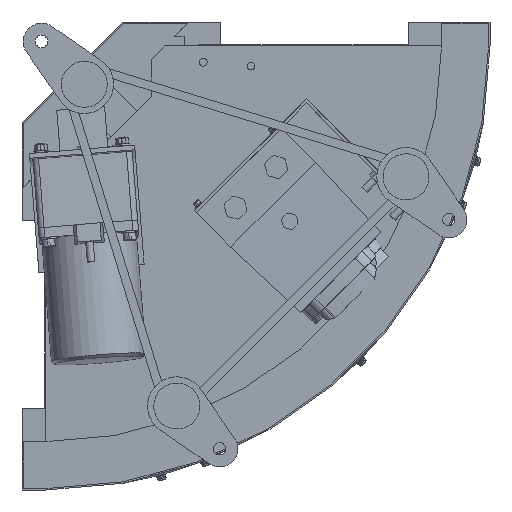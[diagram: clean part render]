
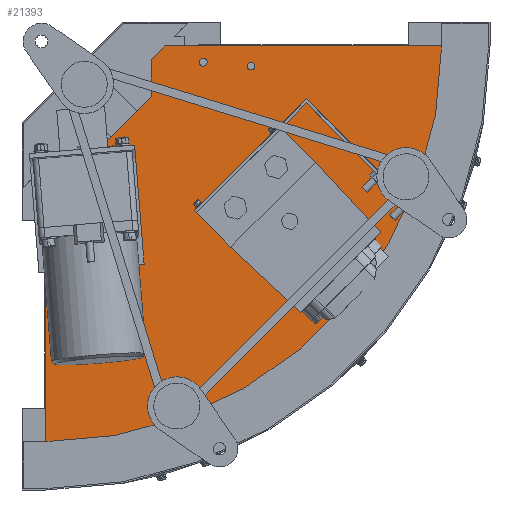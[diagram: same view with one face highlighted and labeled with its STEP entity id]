
A CAD part, front view. The second image highlights one B-rep face of the part: STEP entity #21393.
In plain terms, the highlighted planar face has unit normal (0, -1, 0).
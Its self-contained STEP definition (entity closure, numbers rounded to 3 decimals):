
#17 = CARTESIAN_POINT ( 'NONE',  ( 52.635, -142.5, -110. ) ) ;
#101 = CARTESIAN_POINT ( 'NONE',  ( 0., -142.5, -124.1 ) ) ;
#283 = DIRECTION ( 'NONE',  ( 0., -1., 0. ) ) ;
#343 = CARTESIAN_POINT ( 'NONE',  ( 62.05, -142.5, -62.05 ) ) ;
#472 = FACE_BOUND ( 'NONE', #18788, .T. ) ;
#520 = CARTESIAN_POINT ( 'NONE',  ( 62.05, -142.5, -62.05 ) ) ;
#624 = LINE ( 'NONE', #17, #16010 ) ;
#1171 = CARTESIAN_POINT ( 'NONE',  ( 110., -142.5, -52.635 ) ) ;
#1220 = EDGE_LOOP ( 'NONE', ( #7343, #12556, #36655, #22123, #29089, #33009, #18945, #3574 ) ) ;
#1806 = FACE_OUTER_BOUND ( 'NONE', #1220, .T. ) ;
#1885 = CARTESIAN_POINT ( 'NONE',  ( 17., -142.5, -164. ) ) ;
#2014 = CARTESIAN_POINT ( 'NONE',  ( 110., -142.5, -14.1 ) ) ;
#2052 = VERTEX_POINT ( 'NONE', #27908 ) ;
#2481 = CARTESIAN_POINT ( 'NONE',  ( 0., -142.5, 0. ) ) ;
#2690 = ORIENTED_EDGE ( 'NONE', *, *, #23067, .F. ) ;
#2881 = DIRECTION ( 'NONE',  ( 0., -1., 0. ) ) ;
#2929 = CARTESIAN_POINT ( 'NONE',  ( 17., -142.5, -160. ) ) ;
#2944 = DIRECTION ( 'NONE',  ( 0., 0., 1. ) ) ;
#3142 = DIRECTION ( 'NONE',  ( 0., 0., -1. ) ) ;
#3282 = EDGE_CURVE ( 'NONE', #18198, #31568, #14964, .T. ) ;
#3325 = VERTEX_POINT ( 'NONE', #12368 ) ;
#3333 = DIRECTION ( 'NONE',  ( 0., 1., 0. ) ) ;
#3450 = AXIS2_PLACEMENT_3D ( 'NONE', #14442, #11434, #17650 ) ;
#3574 = ORIENTED_EDGE ( 'NONE', *, *, #31744, .F. ) ;
#3615 = CARTESIAN_POINT ( 'NONE',  ( 21., -142.5, -213.84 ) ) ;
#3845 = ORIENTED_EDGE ( 'NONE', *, *, #24919, .F. ) ;
#3897 = ORIENTED_EDGE ( 'NONE', *, *, #9647, .F. ) ;
#3936 = AXIS2_PLACEMENT_3D ( 'NONE', #1885, #34111, #7714 ) ;
#4025 = CARTESIAN_POINT ( 'NONE',  ( 213.84, -142.5, -21. ) ) ;
#4561 = LINE ( 'NONE', #1171, #33589 ) ;
#5701 = CIRCLE ( 'NONE', #12524, 4. ) ;
#6192 = CIRCLE ( 'NONE', #3936, 4. ) ;
#6391 = FACE_BOUND ( 'NONE', #13212, .T. ) ;
#6449 = DIRECTION ( 'NONE',  ( -0.707, 0., -0.707 ) ) ;
#6513 = VERTEX_POINT ( 'NONE', #2929 ) ;
#6903 = AXIS2_PLACEMENT_3D ( 'NONE', #2481, #22778, #11593 ) ;
#6997 = AXIS2_PLACEMENT_3D ( 'NONE', #34610, #17207, #37530 ) ;
#7343 = ORIENTED_EDGE ( 'NONE', *, *, #16165, .F. ) ;
#7386 = DIRECTION ( 'NONE',  ( 0., 0., 1. ) ) ;
#7714 = DIRECTION ( 'NONE',  ( 0., 0., 1. ) ) ;
#8324 = EDGE_CURVE ( 'NONE', #17998, #20079, #36507, .T. ) ;
#8554 = CARTESIAN_POINT ( 'NONE',  ( 164., -142.5, -17. ) ) ;
#8577 = AXIS2_PLACEMENT_3D ( 'NONE', #3615, #283, #9035 ) ;
#9035 = DIRECTION ( 'NONE',  ( 0., 0., 1. ) ) ;
#9090 = FACE_BOUND ( 'NONE', #31180, .T. ) ;
#9585 = CARTESIAN_POINT ( 'NONE',  ( 52.635, -142.5, -110. ) ) ;
#9647 = EDGE_CURVE ( 'NONE', #15930, #26218, #34142, .T. ) ;
#9822 = DIRECTION ( 'NONE',  ( 0., 0., -1. ) ) ;
#10242 = ORIENTED_EDGE ( 'NONE', *, *, #22029, .F. ) ;
#10517 = VERTEX_POINT ( 'NONE', #16904 ) ;
#10797 = CARTESIAN_POINT ( 'NONE',  ( 0., -142.5, -412.5 ) ) ;
#11302 = EDGE_CURVE ( 'NONE', #2052, #29386, #35357, .T. ) ;
#11434 = DIRECTION ( 'NONE',  ( 0., -1., 0. ) ) ;
#11593 = DIRECTION ( 'NONE',  ( 0., 0., 1. ) ) ;
#11781 = CARTESIAN_POINT ( 'NONE',  ( 0., -142.5, 0. ) ) ;
#12368 = CARTESIAN_POINT ( 'NONE',  ( 110., -142.5, -52.635 ) ) ;
#12522 = ORIENTED_EDGE ( 'NONE', *, *, #21270, .F. ) ;
#12524 = AXIS2_PLACEMENT_3D ( 'NONE', #4025, #24332, #9822 ) ;
#12556 = ORIENTED_EDGE ( 'NONE', *, *, #29061, .F. ) ;
#13187 = CARTESIAN_POINT ( 'NONE',  ( 21., -142.5, -209.84 ) ) ;
#13212 = EDGE_LOOP ( 'NONE', ( #12522, #36201 ) ) ;
#13308 = LINE ( 'NONE', #32539, #29267 ) ;
#13390 = CARTESIAN_POINT ( 'NONE',  ( 213.84, -142.5, -25. ) ) ;
#13525 = VECTOR ( 'NONE', #36117, 1000. ) ;
#13764 = EDGE_LOOP ( 'NONE', ( #2690, #3897 ) ) ;
#14368 = DIRECTION ( 'NONE',  ( 0., -1., 0. ) ) ;
#14442 = CARTESIAN_POINT ( 'NONE',  ( 164., -142.5, -17. ) ) ;
#14730 = DIRECTION ( 'NONE',  ( 1., 0., 0. ) ) ;
#14964 = LINE ( 'NONE', #343, #17287 ) ;
#15691 = DIRECTION ( 'NONE',  ( 0.707, 0., 0.707 ) ) ;
#15724 = VERTEX_POINT ( 'NONE', #26822 ) ;
#15930 = VERTEX_POINT ( 'NONE', #22745 ) ;
#16010 = VECTOR ( 'NONE', #31468, 1000. ) ;
#16165 = EDGE_CURVE ( 'NONE', #17176, #3325, #4561, .T. ) ;
#16904 = CARTESIAN_POINT ( 'NONE',  ( 213.84, -142.5, -17. ) ) ;
#17176 = VERTEX_POINT ( 'NONE', #9585 ) ;
#17207 = DIRECTION ( 'NONE',  ( 0., -1., 0. ) ) ;
#17287 = VECTOR ( 'NONE', #6449, 1000. ) ;
#17650 = DIRECTION ( 'NONE',  ( 0., 0., -1. ) ) ;
#17773 = EDGE_CURVE ( 'NONE', #20079, #29386, #36606, .T. ) ;
#17993 = CIRCLE ( 'NONE', #6997, 4. ) ;
#17998 = VERTEX_POINT ( 'NONE', #22611 ) ;
#18198 = VERTEX_POINT ( 'NONE', #21317 ) ;
#18389 = DIRECTION ( 'NONE',  ( 0., 0., 1. ) ) ;
#18457 = EDGE_CURVE ( 'NONE', #6513, #20670, #6192, .T. ) ;
#18594 = CARTESIAN_POINT ( 'NONE',  ( 110., -142.5, -14.1 ) ) ;
#18706 = CARTESIAN_POINT ( 'NONE',  ( 0., -142.5, -412.5 ) ) ;
#18788 = EDGE_LOOP ( 'NONE', ( #28890, #10242 ) ) ;
#18945 = ORIENTED_EDGE ( 'NONE', *, *, #3282, .T. ) ;
#19339 = EDGE_CURVE ( 'NONE', #18198, #17998, #13308, .T. ) ;
#19422 = CIRCLE ( 'NONE', #23466, 4. ) ;
#19832 = PLANE ( 'NONE',  #6903 ) ;
#20079 = VERTEX_POINT ( 'NONE', #18706 ) ;
#20235 = CARTESIAN_POINT ( 'NONE',  ( 164., -142.5, -21. ) ) ;
#20670 = VERTEX_POINT ( 'NONE', #25097 ) ;
#20801 = DIRECTION ( 'NONE',  ( -0.707, 0., -0.707 ) ) ;
#21270 = EDGE_CURVE ( 'NONE', #20670, #6513, #32698, .T. ) ;
#21317 = CARTESIAN_POINT ( 'NONE',  ( 124.1, -142.5, 0. ) ) ;
#21393 = ADVANCED_FACE ( 'NONE', ( #9090, #472, #6391, #36759, #1806 ), #19832, .F. ) ;
#21514 = AXIS2_PLACEMENT_3D ( 'NONE', #11781, #3333, #2944 ) ;
#22029 = EDGE_CURVE ( 'NONE', #23372, #15724, #37697, .T. ) ;
#22123 = ORIENTED_EDGE ( 'NONE', *, *, #17773, .F. ) ;
#22611 = CARTESIAN_POINT ( 'NONE',  ( 412.5, -142.5, 0. ) ) ;
#22745 = CARTESIAN_POINT ( 'NONE',  ( 164., -142.5, -13. ) ) ;
#22778 = DIRECTION ( 'NONE',  ( 0., 1., 0. ) ) ;
#23067 = EDGE_CURVE ( 'NONE', #26218, #15930, #19422, .T. ) ;
#23372 = VERTEX_POINT ( 'NONE', #13187 ) ;
#23466 = AXIS2_PLACEMENT_3D ( 'NONE', #8554, #2881, #3142 ) ;
#24332 = DIRECTION ( 'NONE',  ( 0., -1., 0. ) ) ;
#24740 = DIRECTION ( 'NONE',  ( 0., -1., 0. ) ) ;
#24919 = EDGE_CURVE ( 'NONE', #10517, #32880, #5701, .T. ) ;
#25097 = CARTESIAN_POINT ( 'NONE',  ( 17., -142.5, -168. ) ) ;
#25867 = LINE ( 'NONE', #18594, #13525 ) ;
#25992 = CARTESIAN_POINT ( 'NONE',  ( 213.84, -142.5, -21. ) ) ;
#26218 = VERTEX_POINT ( 'NONE', #20235 ) ;
#26822 = CARTESIAN_POINT ( 'NONE',  ( 21., -142.5, -217.84 ) ) ;
#27612 = EDGE_CURVE ( 'NONE', #32880, #10517, #34077, .T. ) ;
#27908 = CARTESIAN_POINT ( 'NONE',  ( 14.1, -142.5, -110. ) ) ;
#28890 = ORIENTED_EDGE ( 'NONE', *, *, #34170, .F. ) ;
#28897 = VECTOR ( 'NONE', #7386, 1000. ) ;
#29014 = AXIS2_PLACEMENT_3D ( 'NONE', #33114, #24740, #18389 ) ;
#29061 = EDGE_CURVE ( 'NONE', #2052, #17176, #624, .T. ) ;
#29089 = ORIENTED_EDGE ( 'NONE', *, *, #8324, .F. ) ;
#29267 = VECTOR ( 'NONE', #14730, 1000. ) ;
#29386 = VERTEX_POINT ( 'NONE', #101 ) ;
#31180 = EDGE_LOOP ( 'NONE', ( #36513, #3845 ) ) ;
#31468 = DIRECTION ( 'NONE',  ( 1., 0., 0. ) ) ;
#31568 = VERTEX_POINT ( 'NONE', #2014 ) ;
#31647 = DIRECTION ( 'NONE',  ( 0., 0., -1. ) ) ;
#31744 = EDGE_CURVE ( 'NONE', #3325, #31568, #25867, .T. ) ;
#32539 = CARTESIAN_POINT ( 'NONE',  ( 124., -142.5, 0. ) ) ;
#32698 = CIRCLE ( 'NONE', #29014, 4. ) ;
#32880 = VERTEX_POINT ( 'NONE', #13390 ) ;
#33009 = ORIENTED_EDGE ( 'NONE', *, *, #19339, .F. ) ;
#33085 = AXIS2_PLACEMENT_3D ( 'NONE', #25992, #14368, #31647 ) ;
#33114 = CARTESIAN_POINT ( 'NONE',  ( 17., -142.5, -164. ) ) ;
#33589 = VECTOR ( 'NONE', #15691, 1000. ) ;
#33995 = VECTOR ( 'NONE', #20801, 1000. ) ;
#34077 = CIRCLE ( 'NONE', #33085, 4. ) ;
#34111 = DIRECTION ( 'NONE',  ( 0., -1., 0. ) ) ;
#34142 = CIRCLE ( 'NONE', #3450, 4. ) ;
#34170 = EDGE_CURVE ( 'NONE', #15724, #23372, #17993, .T. ) ;
#34610 = CARTESIAN_POINT ( 'NONE',  ( 21., -142.5, -213.84 ) ) ;
#35357 = LINE ( 'NONE', #520, #33995 ) ;
#36117 = DIRECTION ( 'NONE',  ( 0., 0., 1. ) ) ;
#36201 = ORIENTED_EDGE ( 'NONE', *, *, #18457, .F. ) ;
#36507 = CIRCLE ( 'NONE', #21514, 412.5 ) ;
#36513 = ORIENTED_EDGE ( 'NONE', *, *, #27612, .F. ) ;
#36606 = LINE ( 'NONE', #10797, #28897 ) ;
#36655 = ORIENTED_EDGE ( 'NONE', *, *, #11302, .T. ) ;
#36759 = FACE_BOUND ( 'NONE', #13764, .T. ) ;
#37530 = DIRECTION ( 'NONE',  ( 0., 0., 1. ) ) ;
#37697 = CIRCLE ( 'NONE', #8577, 4. ) ;
